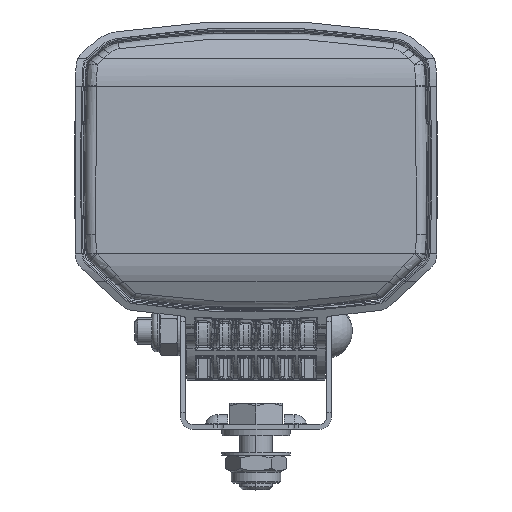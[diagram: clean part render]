
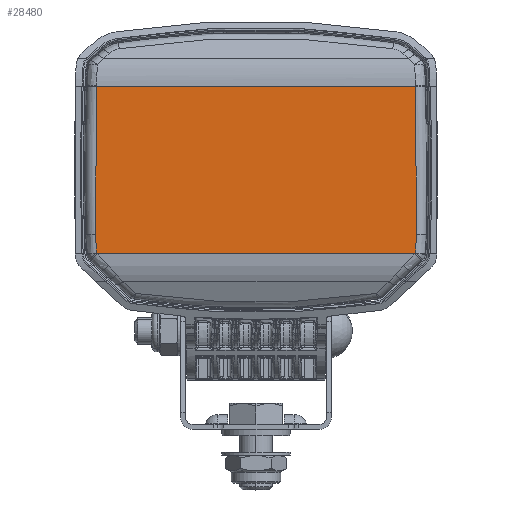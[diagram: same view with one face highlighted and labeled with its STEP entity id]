
A CAD part, top view. The second image highlights one B-rep face of the part: STEP entity #28480.
In plain terms, the highlighted free-form (B-spline) face has degree [5, 1] with [6, 2] control points.
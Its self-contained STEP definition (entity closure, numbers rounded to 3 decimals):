
#28331=CARTESIAN_POINT('Control Point',(-90.,-30.,27.)) ;
#28332=CARTESIAN_POINT('Control Point',(90.,-30.,27.)) ;
#28333=CARTESIAN_POINT('Control Point',(-90.,-18.,27.)) ;
#28334=CARTESIAN_POINT('Control Point',(90.,-18.,27.)) ;
#28335=CARTESIAN_POINT('Control Point',(-90.,-6.,27.)) ;
#28336=CARTESIAN_POINT('Control Point',(90.,-6.,27.)) ;
#28337=CARTESIAN_POINT('Control Point',(-90.,6.,27.)) ;
#28338=CARTESIAN_POINT('Control Point',(90.,6.,27.)) ;
#28339=CARTESIAN_POINT('Control Point',(-90.,18.,27.)) ;
#28340=CARTESIAN_POINT('Control Point',(90.,18.,27.)) ;
#28341=CARTESIAN_POINT('Control Point',(-90.,30.,27.)) ;
#28342=CARTESIAN_POINT('Control Point',(90.,30.,27.)) ;
#28344=CARTESIAN_POINT('Control Point',(48.668,25.468,27.)) ;
#28345=CARTESIAN_POINT('Control Point',(48.667,25.501,27.)) ;
#28346=CARTESIAN_POINT('Control Point',(48.665,25.533,27.)) ;
#28347=CARTESIAN_POINT('Control Point',(48.664,25.566,27.)) ;
#28348=CARTESIAN_POINT('Vertex',(48.668,25.468,27.)) ;
#28350=CARTESIAN_POINT('Vertex',(48.664,25.566,27.)) ;
#28354=CARTESIAN_POINT('Control Point',(48.669,25.44,27.)) ;
#28355=CARTESIAN_POINT('Control Point',(48.669,25.449,27.)) ;
#28356=CARTESIAN_POINT('Control Point',(48.668,25.459,27.)) ;
#28357=CARTESIAN_POINT('Control Point',(48.668,25.468,27.)) ;
#28358=CARTESIAN_POINT('Vertex',(48.669,25.44,27.)) ;
#28362=CARTESIAN_POINT('Control Point',(48.891,-19.596,27.)) ;
#28363=CARTESIAN_POINT('Control Point',(49.386,-4.588,27.)) ;
#28364=CARTESIAN_POINT('Control Point',(49.312,10.436,27.)) ;
#28365=CARTESIAN_POINT('Control Point',(48.669,25.44,27.)) ;
#28366=CARTESIAN_POINT('Vertex',(48.891,-19.596,27.)) ;
#28370=CARTESIAN_POINT('Control Point',(48.674,-25.366,27.)) ;
#28371=CARTESIAN_POINT('Control Point',(48.735,-23.923,27.)) ;
#28372=CARTESIAN_POINT('Control Point',(48.791,-22.497,27.)) ;
#28373=CARTESIAN_POINT('Control Point',(48.843,-21.044,27.)) ;
#28374=CARTESIAN_POINT('Control Point',(48.891,-19.596,27.)) ;
#28375=CARTESIAN_POINT('Vertex',(48.674,-25.366,27.)) ;
#28379=CARTESIAN_POINT('Control Point',(48.454,-25.566,27.)) ;
#28380=CARTESIAN_POINT('Control Point',(48.528,-25.499,27.)) ;
#28381=CARTESIAN_POINT('Control Point',(48.601,-25.433,27.)) ;
#28382=CARTESIAN_POINT('Control Point',(48.674,-25.366,27.)) ;
#28383=CARTESIAN_POINT('Vertex',(48.454,-25.566,27.)) ;
#28387=CARTESIAN_POINT('Control Point',(-48.454,-25.566,27.)) ;
#28388=CARTESIAN_POINT('Control Point',(-29.073,-25.566,27.)) ;
#28389=CARTESIAN_POINT('Control Point',(-9.691,-25.566,27.)) ;
#28390=CARTESIAN_POINT('Control Point',(9.691,-25.566,27.)) ;
#28391=CARTESIAN_POINT('Control Point',(29.073,-25.566,27.)) ;
#28392=CARTESIAN_POINT('Control Point',(48.454,-25.566,27.)) ;
#28393=CARTESIAN_POINT('Vertex',(-48.454,-25.566,27.)) ;
#28397=CARTESIAN_POINT('Control Point',(-48.674,-25.366,27.)) ;
#28398=CARTESIAN_POINT('Control Point',(-48.601,-25.433,27.)) ;
#28399=CARTESIAN_POINT('Control Point',(-48.528,-25.499,27.)) ;
#28400=CARTESIAN_POINT('Control Point',(-48.454,-25.566,27.)) ;
#28401=CARTESIAN_POINT('Vertex',(-48.674,-25.366,27.)) ;
#28405=CARTESIAN_POINT('Control Point',(-48.891,-19.596,27.)) ;
#28406=CARTESIAN_POINT('Control Point',(-48.887,-19.716,27.)) ;
#28407=CARTESIAN_POINT('Control Point',(-48.883,-19.835,27.)) ;
#28408=CARTESIAN_POINT('Control Point',(-48.879,-19.955,27.)) ;
#28409=CARTESIAN_POINT('Control Point',(-48.873,-20.139,27.)) ;
#28410=CARTESIAN_POINT('Control Point',(-48.867,-20.322,27.)) ;
#28411=CARTESIAN_POINT('Control Point',(-48.865,-20.366,27.)) ;
#28412=CARTESIAN_POINT('Control Point',(-48.859,-20.553,27.)) ;
#28413=CARTESIAN_POINT('Control Point',(-48.852,-20.743,27.)) ;
#28414=CARTESIAN_POINT('Control Point',(-48.848,-20.861,27.)) ;
#28415=CARTESIAN_POINT('Control Point',(-48.842,-21.04,27.)) ;
#28416=CARTESIAN_POINT('Control Point',(-48.835,-21.219,27.)) ;
#28417=CARTESIAN_POINT('Control Point',(-48.833,-21.278,27.)) ;
#28418=CARTESIAN_POINT('Control Point',(-48.817,-21.744,27.)) ;
#28419=CARTESIAN_POINT('Control Point',(-48.8,-22.206,27.)) ;
#28420=CARTESIAN_POINT('Control Point',(-48.785,-22.602,27.)) ;
#28421=CARTESIAN_POINT('Control Point',(-48.755,-23.387,27.)) ;
#28422=CARTESIAN_POINT('Control Point',(-48.724,-24.168,27.)) ;
#28423=CARTESIAN_POINT('Control Point',(-48.708,-24.561,27.)) ;
#28424=CARTESIAN_POINT('Control Point',(-48.691,-24.958,27.)) ;
#28425=CARTESIAN_POINT('Control Point',(-48.674,-25.366,27.)) ;
#28426=CARTESIAN_POINT('Vertex',(-48.891,-19.596,27.)) ;
#28430=CARTESIAN_POINT('Control Point',(-48.669,25.44,27.)) ;
#28431=CARTESIAN_POINT('Control Point',(-49.312,10.438,27.)) ;
#28432=CARTESIAN_POINT('Control Point',(-49.386,-4.588,27.)) ;
#28433=CARTESIAN_POINT('Control Point',(-48.891,-19.596,27.)) ;
#28434=CARTESIAN_POINT('Vertex',(-48.669,25.44,27.)) ;
#28438=CARTESIAN_POINT('Control Point',(-48.668,25.468,27.)) ;
#28439=CARTESIAN_POINT('Control Point',(-48.668,25.465,27.)) ;
#28440=CARTESIAN_POINT('Control Point',(-48.668,25.462,27.)) ;
#28441=CARTESIAN_POINT('Control Point',(-48.669,25.456,27.)) ;
#28442=CARTESIAN_POINT('Control Point',(-48.669,25.452,27.)) ;
#28443=CARTESIAN_POINT('Control Point',(-48.669,25.448,27.)) ;
#28444=CARTESIAN_POINT('Control Point',(-48.669,25.442,27.)) ;
#28445=CARTESIAN_POINT('Control Point',(-48.669,25.441,27.)) ;
#28446=CARTESIAN_POINT('Control Point',(-48.669,25.44,27.)) ;
#28447=CARTESIAN_POINT('Vertex',(-48.668,25.468,27.)) ;
#28451=CARTESIAN_POINT('Control Point',(-48.664,25.566,27.)) ;
#28452=CARTESIAN_POINT('Control Point',(-48.665,25.533,27.)) ;
#28453=CARTESIAN_POINT('Control Point',(-48.667,25.501,27.)) ;
#28454=CARTESIAN_POINT('Control Point',(-48.668,25.468,27.)) ;
#28455=CARTESIAN_POINT('Vertex',(-48.664,25.566,27.)) ;
#28459=CARTESIAN_POINT('Control Point',(-48.664,25.566,27.)) ;
#28460=CARTESIAN_POINT('Control Point',(-29.198,25.566,27.)) ;
#28461=CARTESIAN_POINT('Control Point',(-9.733,25.566,27.)) ;
#28462=CARTESIAN_POINT('Control Point',(9.733,25.566,27.)) ;
#28463=CARTESIAN_POINT('Control Point',(29.198,25.566,27.)) ;
#28464=CARTESIAN_POINT('Control Point',(48.664,25.566,27.)) ;
#28467=ORIENTED_EDGE('',*,*,#28352,.F.) ;
#28468=ORIENTED_EDGE('',*,*,#28360,.F.) ;
#28469=ORIENTED_EDGE('',*,*,#28368,.F.) ;
#28470=ORIENTED_EDGE('',*,*,#28377,.F.) ;
#28471=ORIENTED_EDGE('',*,*,#28385,.F.) ;
#28472=ORIENTED_EDGE('',*,*,#28395,.T.) ;
#28473=ORIENTED_EDGE('',*,*,#28403,.F.) ;
#28474=ORIENTED_EDGE('',*,*,#28428,.F.) ;
#28475=ORIENTED_EDGE('',*,*,#28436,.F.) ;
#28476=ORIENTED_EDGE('',*,*,#28449,.F.) ;
#28477=ORIENTED_EDGE('',*,*,#28457,.F.) ;
#28478=ORIENTED_EDGE('',*,*,#28465,.F.) ;
#28480=ADVANCED_FACE('Surface.13',(#28479),#28330,.T.) ;
#28343=B_SPLINE_CURVE_WITH_KNOTS('',3,(#28344,#28345,#28346,#28347),.UNSPECIFIED.,.F.,.U.,(4,4),(1.22,1.452),.UNSPECIFIED.) ;
#28353=B_SPLINE_CURVE_WITH_KNOTS('',3,(#28354,#28355,#28356,#28357),.UNSPECIFIED.,.F.,.U.,(4,4),(0.264,0.328),.UNSPECIFIED.) ;
#28361=B_SPLINE_CURVE_WITH_KNOTS('',3,(#28362,#28363,#28364,#28365),.UNSPECIFIED.,.F.,.U.,(4,4),(35.942,137.158),.UNSPECIFIED.) ;
#28369=B_SPLINE_CURVE_WITH_KNOTS('',4,(#28370,#28371,#28372,#28373,#28374),.UNSPECIFIED.,.F.,.U.,(5,5),(22.583,35.364),.UNSPECIFIED.) ;
#28378=B_SPLINE_CURVE_WITH_KNOTS('',3,(#28379,#28380,#28381,#28382),.UNSPECIFIED.,.F.,.U.,(4,4),(6.548,7.22),.UNSPECIFIED.) ;
#28386=B_SPLINE_CURVE_WITH_KNOTS('',5,(#28387,#28388,#28389,#28390,#28391,#28392),.UNSPECIFIED.,.F.,.U.,(6,6),(41.546,138.454),.UNSPECIFIED.) ;
#28396=B_SPLINE_CURVE_WITH_KNOTS('',3,(#28397,#28398,#28399,#28400),.UNSPECIFIED.,.F.,.U.,(4,4),(16.172,16.844),.UNSPECIFIED.) ;
#28404=B_SPLINE_CURVE_WITH_KNOTS('',5,(#28405,#28406,#28407,#28408,#28409,#28410,#28411,#28412,#28413,#28414,#28415,#28416,#28417,#28418,#28419,#28420,#28421,#28422,#28423,#28424,#28425),.UNSPECIFIED.,.F.,.U.,(6,3,3,3,3,3,6),(26.011,27.331,28.036,29.356,30.016,34.536,39.056),.UNSPECIFIED.) ;
#28429=B_SPLINE_CURVE_WITH_KNOTS('',3,(#28430,#28431,#28432,#28433),.UNSPECIFIED.,.F.,.U.,(4,4),(23.16,124.366),.UNSPECIFIED.) ;
#28437=B_SPLINE_CURVE_WITH_KNOTS('',5,(#28438,#28439,#28440,#28441,#28442,#28443,#28444,#28445,#28446),.UNSPECIFIED.,.F.,.U.,(6,3,6),(0.425,0.46,0.472),.UNSPECIFIED.) ;
#28450=B_SPLINE_CURVE_WITH_KNOTS('',3,(#28451,#28452,#28453,#28454),.UNSPECIFIED.,.F.,.U.,(4,4),(2.185,2.394),.UNSPECIFIED.) ;
#28458=B_SPLINE_CURVE_WITH_KNOTS('',5,(#28459,#28460,#28461,#28462,#28463,#28464),.UNSPECIFIED.,.F.,.U.,(6,6),(41.336,138.664),.UNSPECIFIED.) ;
#28330=B_SPLINE_SURFACE_WITH_KNOTS('',5,1,((#28331,#28332),(#28333,#28334),(#28335,#28336),(#28337,#28338),(#28339,#28340),(#28341,#28342)),.UNSPECIFIED.,.F.,.F.,.U.,(6,6),(2,2),(0.,60.),(0.,180.),.UNSPECIFIED.) ;
#28352=EDGE_CURVE('',#28349,#28351,#28343,.T.) ;
#28360=EDGE_CURVE('',#28359,#28349,#28353,.T.) ;
#28368=EDGE_CURVE('',#28367,#28359,#28361,.T.) ;
#28377=EDGE_CURVE('',#28376,#28367,#28369,.T.) ;
#28385=EDGE_CURVE('',#28384,#28376,#28378,.T.) ;
#28395=EDGE_CURVE('',#28384,#28394,#28386,.F.) ;
#28403=EDGE_CURVE('',#28402,#28394,#28396,.T.) ;
#28428=EDGE_CURVE('',#28427,#28402,#28404,.T.) ;
#28436=EDGE_CURVE('',#28435,#28427,#28429,.T.) ;
#28449=EDGE_CURVE('',#28448,#28435,#28437,.T.) ;
#28457=EDGE_CURVE('',#28456,#28448,#28450,.T.) ;
#28465=EDGE_CURVE('',#28351,#28456,#28458,.F.) ;
#28466=EDGE_LOOP('',(#28467,#28468,#28469,#28470,#28471,#28472,#28473,#28474,#28475,#28476,#28477,#28478)) ;
#28479=FACE_OUTER_BOUND('',#28466,.T.) ;
#28349=VERTEX_POINT('',#28348) ;
#28351=VERTEX_POINT('',#28350) ;
#28359=VERTEX_POINT('',#28358) ;
#28367=VERTEX_POINT('',#28366) ;
#28376=VERTEX_POINT('',#28375) ;
#28384=VERTEX_POINT('',#28383) ;
#28394=VERTEX_POINT('',#28393) ;
#28402=VERTEX_POINT('',#28401) ;
#28427=VERTEX_POINT('',#28426) ;
#28435=VERTEX_POINT('',#28434) ;
#28448=VERTEX_POINT('',#28447) ;
#28456=VERTEX_POINT('',#28455) ;
